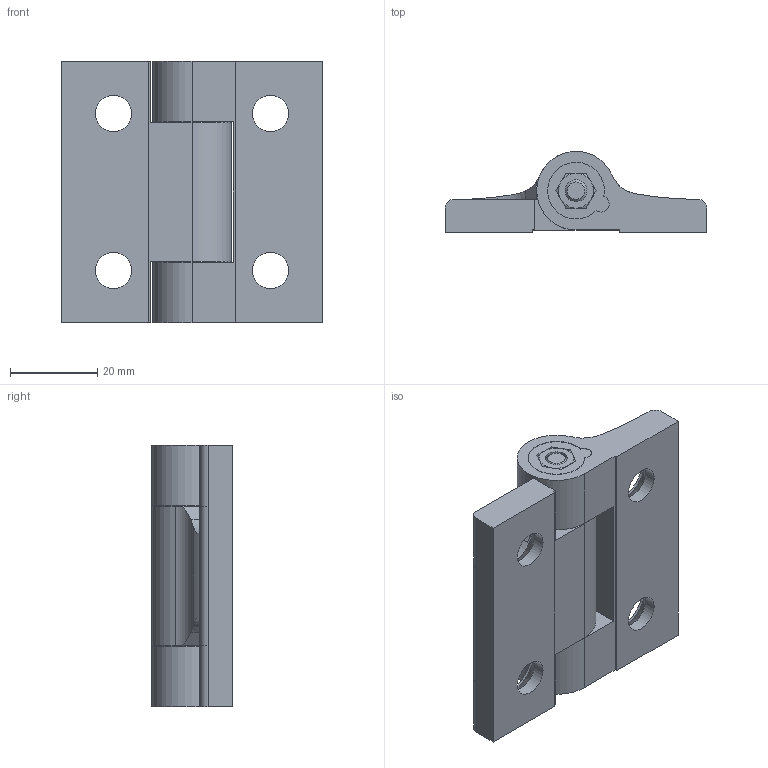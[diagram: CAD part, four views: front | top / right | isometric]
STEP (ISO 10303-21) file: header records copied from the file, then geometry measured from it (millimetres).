
FILE_DESCRIPTION( ( 'STEP AP203' ), '1' );
FILE_NAME( 'C:/Temp/Ganter_Step_05_03_2020/data/3_3/gn_437/Hinge GN 437-ZD-60-60-A-SR (0).stp', '2020-03-12T11:57:32', ( 'License CC BY-ND 4.0' ), ( 'CADENAS' ), ' ', 'PARTsolutions', ' ' );
FILE_SCHEMA( ( 'CONFIG_CONTROL_DESIGN' ) );
Length unit declared in the file: millimetre
Products named in the file (3): Hinge GN 437-ZD-60-60-A-SR (0); _Hinge GN 437-ZD-60-60-A-SR-1; _Scharnier GN 437-ZD-60-60-A-SR (0)-2
Assembly tree (2 placements, depth 2):
  Hinge GN 437-ZD-60-60-A-SR (0)
    _Hinge GN 437-ZD-60-60-A-SR-1
    _Scharnier GN 437-ZD-60-60-A-SR (0)-2
Bounding box: 60 x 18.49 x 60 mm (x, y, z)
Volume: 31982.4 mm3; surface area: 14648.9 mm2
Topology: 2 solids, 3 shells, 131 faces, 322 edges, 204 vertices
Faces by surface type: plane 81, cylinder 34, cone 15, torus 1
Full cylindrical faces by diameter (mm): 5 x2, 5.2 x2, 7.6 x1, 8 x2, 8.3 x4, 16.5 x4
Entity records: 3857 total; most frequent: CARTESIAN_POINT 735, DIRECTION 629, ORIENTED_EDGE 582, EDGE_CURVE 291, AXIS2_PLACEMENT_3D 224, VERTEX_POINT 198, LINE 181, VECTOR 181
